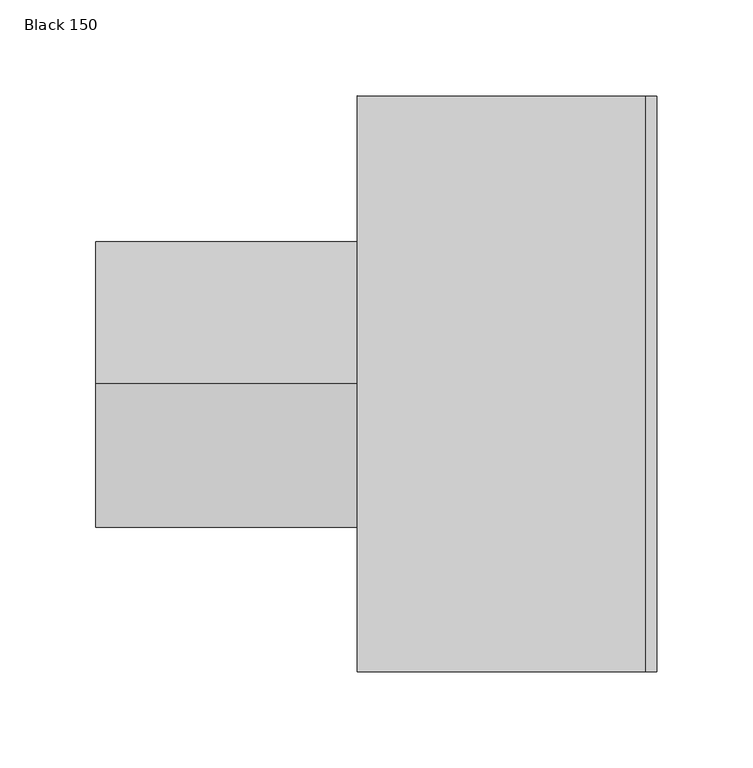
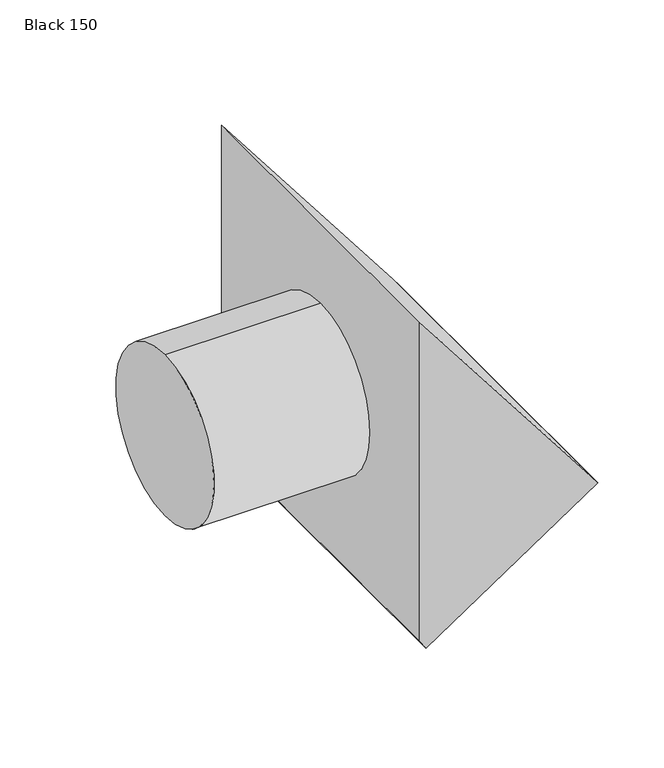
"""IFC4 building model written with IfcOpenShell, lengths in millimetres: air terminal geometry, NLRS_57_AIR_LB_walloutlet terminals_M&G : Black 150."""

from ifc_helpers import new_model, si_unit, point, frame, origin, origin_2d, place, context, project, spatial, circle_curve, trimmed, segment, composite_curve, outline, extrude, faceted_brep, source, transform, mapped, element, save


def black_150_34886671(model_context):
    return source(origin(), model_context, "Body", "SolidModel", [
        extrude(outline(composite_curve([segment(trimmed(circle_curve(origin_2d(), 74.5), [point((0.0, 74.5))], [point((0.0, -74.5))], False, "CARTESIAN"), True, "CONTINUOUS"), segment(trimmed(circle_curve(origin_2d(), 74.5), [point((0.0, -74.5))], [point((0.0, 74.5))], False, "CARTESIAN"), True, "CONTINUOUS")], self_intersect=False)), frame((-136.0, 0.0, 0.0), z_axis=(1.0, 0.0, 0.0), x_axis=(0.0, 1.0, 0.0)), (0.0, 0.0, 1.0), 136.0),
        faceted_brep([(150.0, -150.0, -47.0), (0.0, -150.0, 148.0), (0.0, -150.0, -147.1514627), (5.5528144, -150.0, -155.4680877), (156.1108159, -150.0, -54.9440606), (150.0, 150.0, -47.0), (156.1108159, 150.0, -54.9440606), (5.5528144, 150.0, -155.4680877), (0.0, 150.0, -147.1514627), (0.0, 150.0, 148.0), (153.1999971, 146.5, -56.8875457), (8.4636332, 146.5, -153.5246027), (8.4636332, -146.5, -153.5246027), (153.1999971, -146.5, -56.8875457), (147.6471827, 146.5, -48.5709206), (147.6471827, -146.5, -48.5709206), (2.9108188, -146.5, -145.2079776), (2.9108188, 146.5, -145.2079776)], [[[0, 1, 2, 3, 4]], [[5, 6, 7, 8, 9]], [[1, 0, 5, 9]], [[2, 1, 9, 8]], [[3, 2, 8, 7]], [[4, 3, 7, 6], [10, 11, 12, 13]], [[0, 4, 6, 5]], [[14, 15, 16, 17]], [[14, 17, 11, 10]], [[17, 16, 12, 11]], [[16, 15, 13, 12]], [[15, 14, 10, 13]]]),
    ])


if __name__ == "__main__":
    model = new_model("IFC4")
    model_context = context("Model", 3, world=origin())
    ifc_project = project(units=[si_unit("LENGTHUNIT", "METRE", prefix="MILLI")], contexts=[model_context])
    site = spatial("IfcSite", under=ifc_project)
    building = spatial("IfcBuilding", under=site)
    placement = place(None, origin())
    black_150_shape = black_150_34886671(model_context)
    element("IfcAirTerminal", 1, ObjectType="NLRS_57_AIR_LB_walloutlet terminals_M&G : Black 150", at=placement, inside=building, context=model_context, shape_type="MappedRepresentation", body=[
        mapped(black_150_shape, transform((0.0, 0.0, 0.0), x_axis=(1.0, 0.0, 0.0), y_axis=(0.0, 1.0, 0.0), z_axis=(0.0, 0.0, 1.0))),
    ])
    save(model, "model.ifc")
